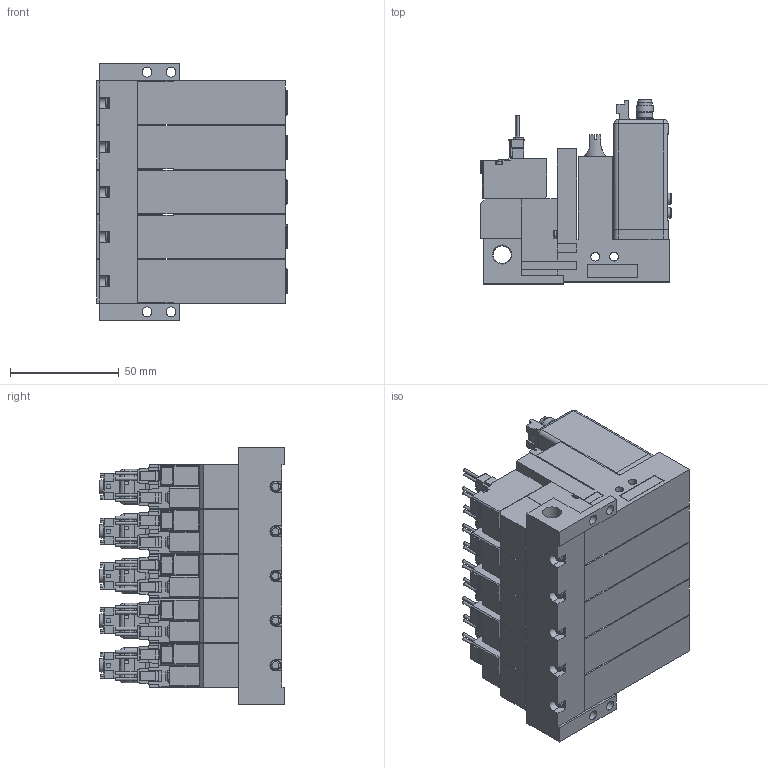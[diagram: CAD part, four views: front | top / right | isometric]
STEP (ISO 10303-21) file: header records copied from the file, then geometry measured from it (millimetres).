
FILE_DESCRIPTION(('STEP AP203'),'1');
FILE_NAME('22_22PL5ALR505.stp','2025-06-12T03:26:28',(' '),(' '),'Spatial InterOp 3D',' ',' ');
FILE_SCHEMA(('CONFIG_CONTROL_DESIGN'));
Length unit declared in the file: millimetre
Products named in the file (9): BMC22M※※※※22_22PL5ALR505; Solenoid valve A; Unit L; Base MR50R; MVS-202
Assembly tree (16 placements, depth 2):
  BMC22M※※※※22_22PL5ALR505
    Solenoid valve A  x5
    Unit L  x5
    Base MR50R
    MVS-202
    MVS-202
    MVS-202
    MVS-202
    MVS-202
Bounding box: 87.5 x 84.6 x 118 mm (x, y, z)
Volume: 486916.1 mm3; surface area: 147129.7 mm2
Topology: 16 solids, 36 shells, 3861 faces, 10054 edges, 6565 vertices
Faces by surface type: plane 3244, cylinder 485, cone 82, torus 30, sphere 20
Full cylindrical faces by diameter (mm): 1 x20, 1.4 x20, 1.5 x5, 2.5 x5, 3 x20, 3.5 x20, 3.6 x5, 4 x10, 4.134 x5, 4.5 x24, 4.8 x15, 5 x10, 5.2 x5, 5.8 x10, 6 x10, 6.5 x15, 6.6 x5, 7 x5, 7.2 x5, 7.9 x5, 8 x10, 8.279 x1
Entity records: 75354 total; most frequent: CARTESIAN_POINT 13558, ORIENTED_EDGE 12336, DIRECTION 12164, EDGE_CURVE 6168, LINE 5206, VECTOR 5206, VERTEX_POINT 4173, AXIS2_PLACEMENT_3D 3479
